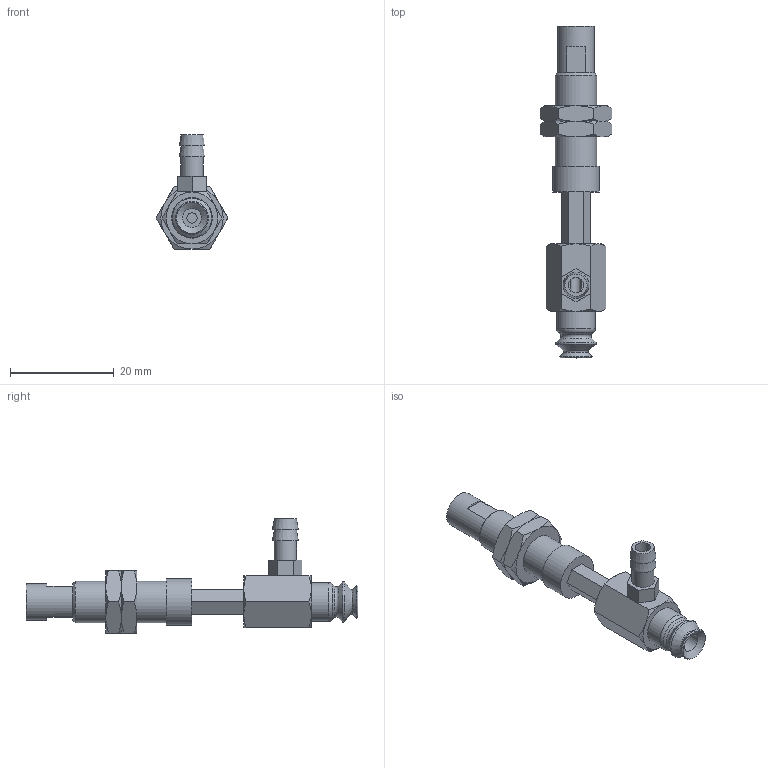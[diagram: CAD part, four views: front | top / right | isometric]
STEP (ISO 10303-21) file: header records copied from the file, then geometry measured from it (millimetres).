
FILE_DESCRIPTION(('STEP AP203'),'1');
FILE_NAME('-T.stp','2025-04-24T05:30:15',(' '),(' '),'Spatial InterOp 3D',' ',' ');
FILE_SCHEMA(('CONFIG_CONTROL_DESIGN'));
Length unit declared in the file: millimetre
Products named in the file (7): BNABPJYH-6-10-※-T; CONNECTOR_H-6-10; NAPJH-6-10-NUT; NAPJTH-6-10-FBODY; NAPJTH-6-10-MBODY; BPJG-6-※; T
Assembly tree (7 placements, depth 2):
  BNABPJYH-6-10-※-T
    CONNECTOR_H-6-10
    NAPJH-6-10-NUT  x2
    NAPJTH-6-10-FBODY
    NAPJTH-6-10-MBODY
    BPJG-6-※
    T
Bounding box: 13.86 x 64 x 22 mm (x, y, z)
Volume: 3578.4 mm3; surface area: 4582.9 mm2
Topology: 7 solids, 7 shells, 159 faces, 346 edges, 212 vertices
Faces by surface type: plane 73, cone 57, cylinder 18, torus 11
Full cylindrical faces by diameter (mm): 2 x1, 3 x1, 3.64 x1, 4 x2, 4.134 x2, 4.3 x1, 5 x2, 6 x2, 7 x1, 7.188 x2, 7.5 x1, 8 x1, 9 x1
Entity records: 3966 total; most frequent: CARTESIAN_POINT 904, DIRECTION 566, ORIENTED_EDGE 480, EDGE_CURVE 240, AXIS2_PLACEMENT_3D 236, EDGE_LOOP 204, VERTEX_POINT 172, FACE_OUTER_BOUND 164
